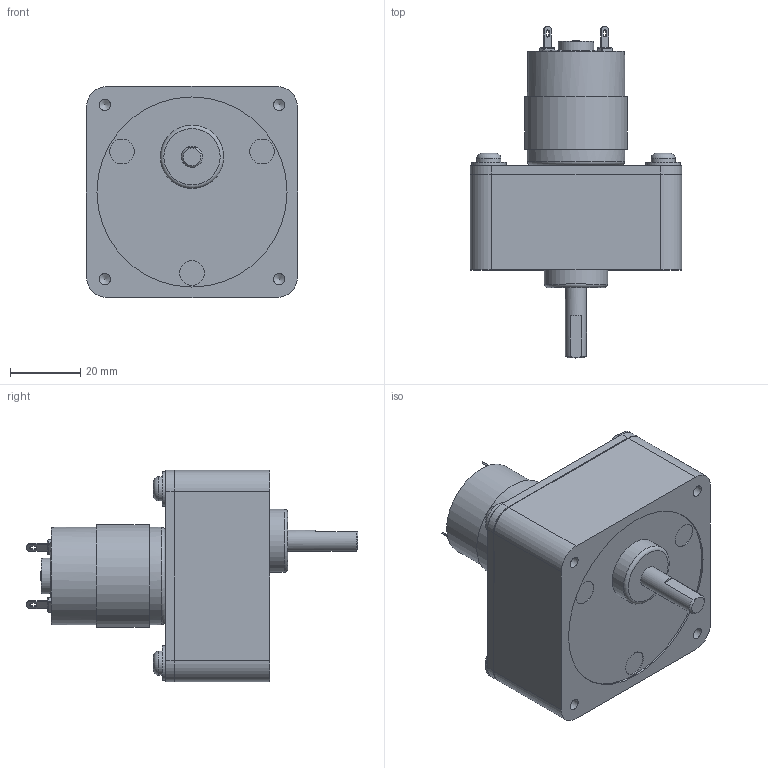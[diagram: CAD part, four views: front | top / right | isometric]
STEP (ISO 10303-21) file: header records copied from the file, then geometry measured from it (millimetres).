
FILE_DESCRIPTION(/* description */ (''),/* implementation_level */ '2;1');
FILE_NAME(/* name */ 'TP-2932#-CE.stp',/* time_stamp */ '2024-02-22T15:15:36+09:00',/* author */ ('user'),/* organization */ (''),/* preprocessor_version */ 'ST-DEVELOPER v20',/* originating_system */ 'Autodesk Inventor 2024',/* authorisation */ '');
FILE_SCHEMA (('AUTOMOTIVE_DESIGN { 1 0 10303 214 3 1 1 }'));
Length unit declared in the file: millimetre
Products named in the file (3): TP-2932#-CE-J00-24; ce(KA-SZ0167); TP-2932#(RS-365PH)
Assembly tree (2 placements, depth 2):
  TP-2932#-CE-J00-24
    ce(KA-SZ0167)
    TP-2932#(RS-365PH)
Bounding box: 60 x 94.3 x 60 mm (x, y, z)
Volume: 127514.2 mm3; surface area: 20125.2 mm2
Topology: 2 solids, 2 shells, 189 faces, 406 edges, 260 vertices
Faces by surface type: plane 109, cylinder 63, torus 9, cone 8
Full cylindrical faces by diameter (mm): 2 x3, 2.113 x2, 2.3 x2, 2.5 x5, 3.242 x4, 6 x1, 6.8 x4, 7 x4, 9 x2, 9.8 x4, 10 x2, 18 x1, 19 x1, 26.7 x1, 27.7 x1, 54 x1
Entity records: 5307 total; most frequent: DIRECTION 947, CARTESIAN_POINT 858, ORIENTED_EDGE 800, EDGE_CURVE 400, AXIS2_PLACEMENT_3D 355, VERTEX_POINT 260, EDGE_LOOP 238, LINE 237
